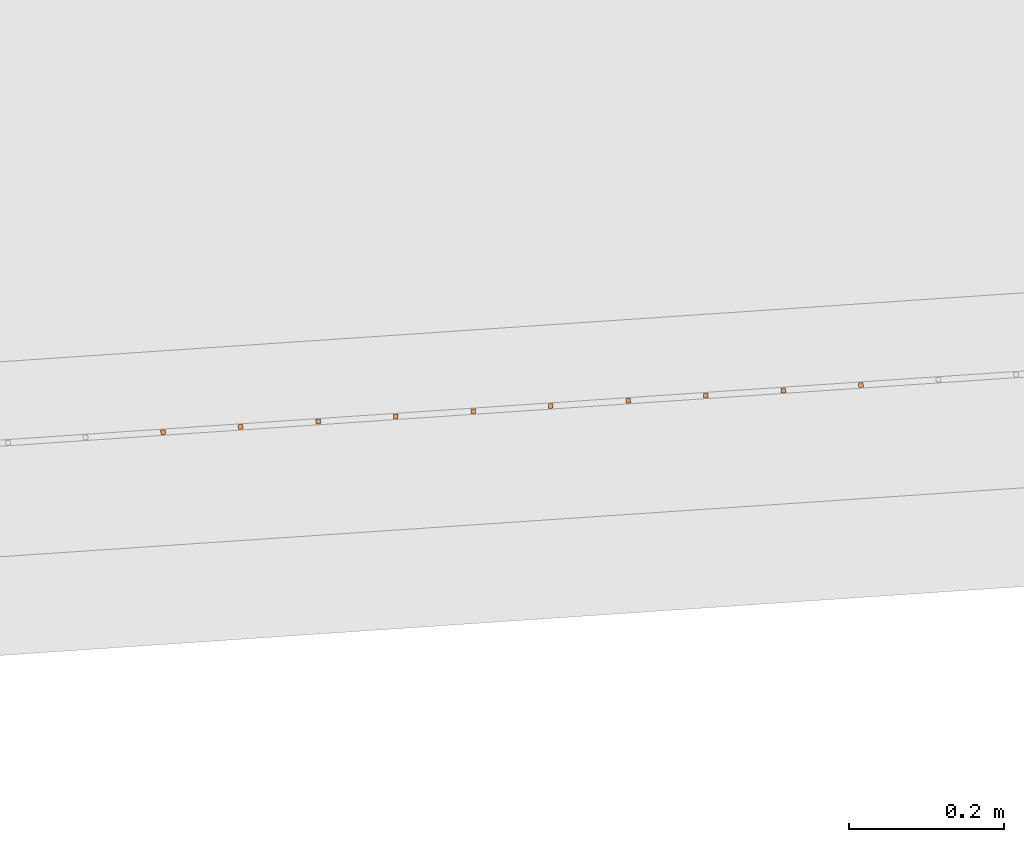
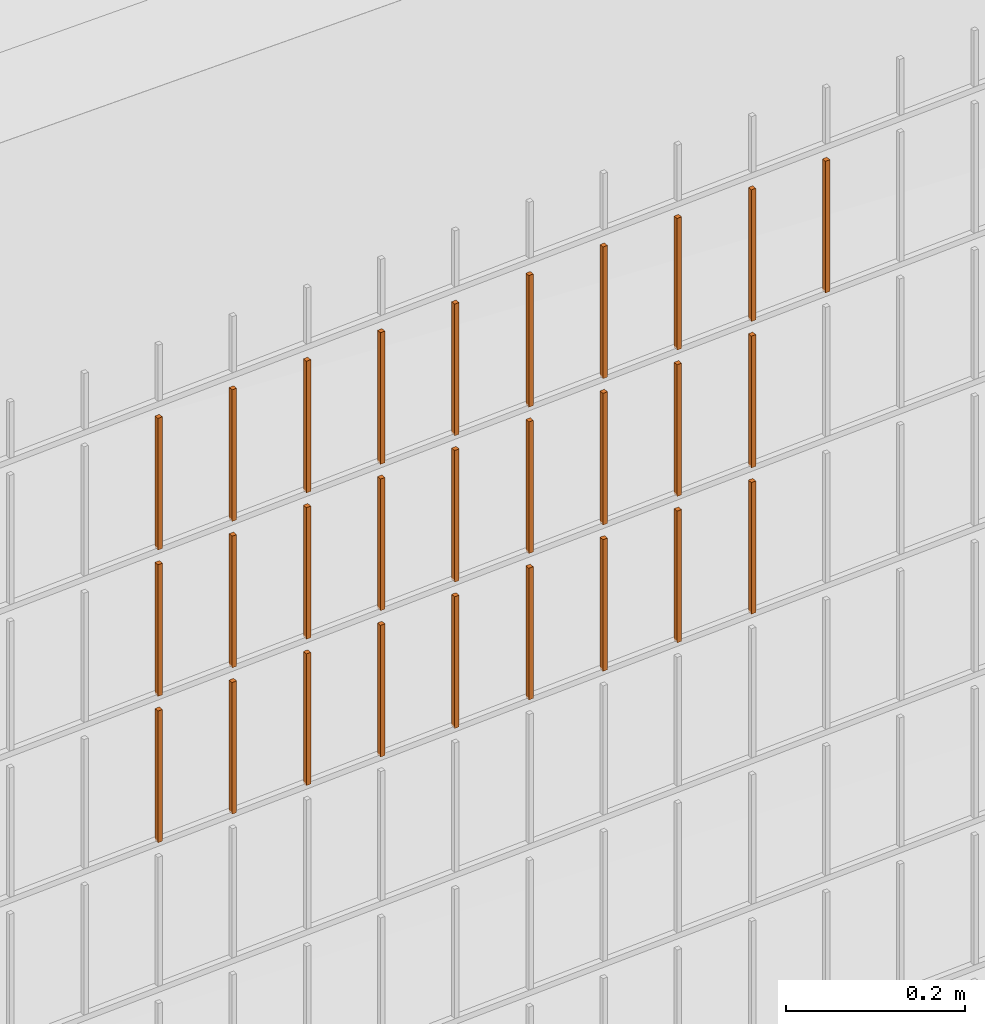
# One storey, part 357 of 1809: 28 proxies, 1 element without a shape of its own.
"""IFC2X3 building model written with IfcOpenShell, lengths in millimetres."""

from ifc_helpers import new_model, entity, si_unit, converted_unit, derived_unit, money_unit, direction, frame, origin_with_axes, place, context, subcontext, project, spatial, faceted_brep, source, transform, mapped, material, type_object, element, aggregate, save


model = new_model("IFC2X3")

# Units and contexts
model_context = context("Model", 3, precision=0.01, world=origin_with_axes(), true_north=direction((0.0, 1.0)))
body_context = subcontext(model_context, "Body", "Model", "MODEL_VIEW")
ifc_project = project(units=[si_unit("LENGTHUNIT", "METRE", prefix="MILLI"), si_unit("AREAUNIT", "SQUARE_METRE"), si_unit("VOLUMEUNIT", "CUBIC_METRE"), converted_unit("PLANEANGLEUNIT", "DEGREE", entity("IfcPlaneAngleMeasure", 0.0174532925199), si_unit("PLANEANGLEUNIT", "RADIAN"), dimensions=[0, 0, 0, 0, 0, 0, 0]), si_unit("SOLIDANGLEUNIT", "STERADIAN"), money_unit("EUR"), converted_unit("TIMEUNIT", "Year", entity("IfcTimeMeasure", 31556926.0), si_unit("TIMEUNIT", "SECOND"), dimensions=[0, 0, 1, 0, 0, 0, 0]), si_unit("MASSUNIT", "GRAM", prefix="KILO"), si_unit("THERMODYNAMICTEMPERATUREUNIT", "DEGREE_CELSIUS"), si_unit("LUMINOUSINTENSITYUNIT", "LUMEN"), si_unit("ENERGYUNIT", "JOULE", prefix="MEGA"), derived_unit("THERMALCONDUCTANCEUNIT", [(si_unit("POWERUNIT", "WATT"), 1), (si_unit("LENGTHUNIT", "METRE"), -1), (si_unit("THERMODYNAMICTEMPERATUREUNIT", "KELVIN"), -1)]), derived_unit("SPECIFICHEATCAPACITYUNIT", [(si_unit("ENERGYUNIT", "JOULE"), 1), (si_unit("MASSUNIT", "GRAM", prefix="KILO"), -1), (si_unit("THERMODYNAMICTEMPERATUREUNIT", "KELVIN"), -1)]), derived_unit("MASSDENSITYUNIT", [(si_unit("MASSUNIT", "GRAM", prefix="KILO"), 1), (si_unit("VOLUMEUNIT", "CUBIC_METRE"), -1)])], contexts=[model_context])

# Site, building, storey
site_placement = place(None, origin_with_axes())
site = spatial("IfcSite", under=ifc_project, at=site_placement, Name="Politse- ja Piirivalveameti ning Päästeameti ühishoone", CompositionType="ELEMENT")
building_placement = place(site_placement, origin_with_axes())
building = spatial("IfcBuilding", under=site, at=building_placement, Name="Politse- ja Piirivalveameti ning Päästeameti ühishoone", CompositionType="ELEMENT")
storey_placement = place(building_placement, origin_with_axes())
storey = spatial("IfcBuildingStorey", under=building, at=storey_placement, Name="Esimene korrus", CompositionType="ELEMENT", Elevation=0.0)

# Proxies
building_element_proxy_type_1 = type_object("IfcBuildingElementProxyType", Name="Railing Type", PredefinedType="NOTDEFINED")
proxy_1_placement = place(storey_placement, frame((89252.001212, -29183.4766571, 203.661247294), z_axis=(0.0, 0.0, 1.0), x_axis=(1.0, 0.0, 0.0)))
proxy_1 = element("IfcBuildingElementProxy", 1, at=proxy_1_placement, inside=storey, type_object=building_element_proxy_type_1, Name="PIIRDEAED")
ifc_material = material(Name="ET-03_Raud")
building_element_proxy_type_2 = type_object("IfcBuildingElementProxyType", Name="IfcBuildingElementProxy", PredefinedType="NOTDEFINED")
shared_shape_1 = source(origin_with_axes(), body_context, "Body", "Brep", [
    faceted_brep([(3.0, 3.0, -0.000752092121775), (-3.0, 3.0, -0.000752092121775), (-3.0, 3.0, 179.99926046), (3.0, 3.0, 179.99926046), (3.0, -3.0, 0.000752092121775), (-3.0, -3.0, 0.000752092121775), (-3.0, -3.0, 180.000764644), (3.0, -3.0, 180.000764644)], [[[0, 1, 2, 3]], [[0, 4, 5, 1]], [[1, 5, 6, 2]], [[3, 2, 6, 7]], [[4, 0, 3, 7]], [[5, 4, 7, 6]]]),
])
proxy_2_placement = place(proxy_1_placement, frame((-25468.6538161, -19018.0862117, 1620.83491187), z_axis=(0.0, 0.0, 1.0), x_axis=(1.0, 0.0, 0.0)))
proxy_2 = element("IfcBuildingElementProxy", 2, at=proxy_2_placement, type_object=building_element_proxy_type_2, material=ifc_material, Name="BALUSTER - 001", context=body_context, shape_type="MappedRepresentation", body=[
    mapped(shared_shape_1, transform((0.0, 0.0, 0.0), x_axis=(-0.0673926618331, 0.997726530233, 0.0), y_axis=(-0.997726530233, -0.0673926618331, 0.0), z_axis=(0.0, 0.0, 1.0))),
])
shared_shape_2 = source(origin_with_axes(), body_context, "Body", "Brep", [
    faceted_brep([(3.0, 3.0, -0.000752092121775), (-3.0, 3.0, -0.000752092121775), (-3.0, 3.0, 179.99926046), (3.0, 3.0, 179.99926046), (3.0, -3.0, 0.000752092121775), (-3.0, -3.0, 0.000752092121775), (-3.0, -3.0, 180.000764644), (3.0, -3.0, 180.000764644)], [[[0, 1, 2, 3]], [[0, 4, 5, 1]], [[1, 5, 6, 2]], [[3, 2, 6, 7]], [[4, 0, 3, 7]], [[5, 4, 7, 6]]]),
])
proxy_3_placement = place(proxy_1_placement, frame((-25468.6538161, -19018.0862117, 1820.83491187), z_axis=(0.0, 0.0, 1.0), x_axis=(1.0, 0.0, 0.0)))
proxy_3 = element("IfcBuildingElementProxy", 3, at=proxy_3_placement, type_object=building_element_proxy_type_2, material=ifc_material, Name="BALUSTER - 001", context=body_context, shape_type="MappedRepresentation", body=[
    mapped(shared_shape_2, transform((0.0, 0.0, 0.0), x_axis=(-0.0673926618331, 0.997726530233, 0.0), y_axis=(-0.997726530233, -0.0673926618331, 0.0), z_axis=(0.0, 0.0, 1.0))),
])
shared_shape_3 = source(origin_with_axes(), body_context, "Body", "Brep", [
    faceted_brep([(3.0, 3.0, -0.000752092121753), (-3.0, 3.0, -0.000752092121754), (-3.0, 3.0, 179.99926046), (3.0, 3.0, 179.99926046), (3.0, -3.0, 0.000752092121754), (-3.0, -3.0, 0.000752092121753), (-3.0, -3.0, 180.000764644), (3.0, -3.0, 180.000764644)], [[[0, 1, 2, 3]], [[0, 4, 5, 1]], [[1, 5, 6, 2]], [[3, 2, 6, 7]], [[4, 0, 3, 7]], [[5, 4, 7, 6]]]),
])
proxy_4_placement = place(proxy_1_placement, frame((-25767.9717752, -19038.3040102, 1820.75970266), z_axis=(0.0, 0.0, 1.0), x_axis=(1.0, 0.0, 0.0)))
proxy_4 = element("IfcBuildingElementProxy", 4, at=proxy_4_placement, type_object=building_element_proxy_type_2, material=ifc_material, Name="BALUSTER - 001", context=body_context, shape_type="MappedRepresentation", body=[
    mapped(shared_shape_3, transform((0.0, 0.0, 0.0), x_axis=(-0.0673926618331, 0.997726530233, 0.0), y_axis=(-0.997726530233, -0.0673926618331, 0.0), z_axis=(0.0, 0.0, 1.0))),
])
shared_shape_4 = source(origin_with_axes(), body_context, "Body", "Brep", [
    faceted_brep([(3.0, 3.0, -0.000752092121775), (-3.0, 3.0, -0.000752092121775), (-3.0, 3.0, 179.99926046), (3.0, 3.0, 179.99926046), (3.0, -3.0, 0.000752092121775), (-3.0, -3.0, 0.000752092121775), (-3.0, -3.0, 180.000764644), (3.0, -3.0, 180.000764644)], [[[0, 1, 2, 3]], [[0, 4, 5, 1]], [[1, 5, 6, 2]], [[3, 2, 6, 7]], [[4, 0, 3, 7]], [[5, 4, 7, 6]]]),
])
proxy_5_placement = place(proxy_1_placement, frame((-25468.6538161, -19018.0862117, 1420.83491187), z_axis=(0.0, 0.0, 1.0), x_axis=(1.0, 0.0, 0.0)))
proxy_5 = element("IfcBuildingElementProxy", 5, at=proxy_5_placement, type_object=building_element_proxy_type_2, material=ifc_material, Name="BALUSTER - 001", context=body_context, shape_type="MappedRepresentation", body=[
    mapped(shared_shape_4, transform((0.0, 0.0, 0.0), x_axis=(-0.0673926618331, 0.997726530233, 0.0), y_axis=(-0.997726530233, -0.0673926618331, 0.0), z_axis=(0.0, 0.0, 1.0))),
])
shared_shape_5 = source(origin_with_axes(), body_context, "Body", "Brep", [
    faceted_brep([(3.0, 3.0, -0.000752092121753), (-3.0, 3.0, -0.000752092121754), (-3.0, 3.0, 179.99926046), (3.0, 3.0, 179.99926046), (3.0, -3.0, 0.000752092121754), (-3.0, -3.0, 0.000752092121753), (-3.0, -3.0, 180.000764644), (3.0, -3.0, 180.000764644)], [[[0, 1, 2, 3]], [[0, 4, 5, 1]], [[1, 5, 6, 2]], [[3, 2, 6, 7]], [[4, 0, 3, 7]], [[5, 4, 7, 6]]]),
])
proxy_6_placement = place(proxy_1_placement, frame((-25767.9717752, -19038.3040102, 1420.75970266), z_axis=(0.0, 0.0, 1.0), x_axis=(1.0, 0.0, 0.0)))
proxy_6 = element("IfcBuildingElementProxy", 6, at=proxy_6_placement, type_object=building_element_proxy_type_2, material=ifc_material, Name="BALUSTER - 001", context=body_context, shape_type="MappedRepresentation", body=[
    mapped(shared_shape_5, transform((0.0, 0.0, 0.0), x_axis=(-0.0673926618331, 0.997726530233, 0.0), y_axis=(-0.997726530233, -0.0673926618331, 0.0), z_axis=(0.0, 0.0, 1.0))),
])
proxy_7_placement = place(proxy_1_placement, frame((-25767.9717752, -19038.3040102, 1620.75970266), z_axis=(0.0, 0.0, 1.0), x_axis=(1.0, 0.0, 0.0)))
proxy_7 = element("IfcBuildingElementProxy", 7, at=proxy_7_placement, type_object=building_element_proxy_type_2, material=ifc_material, Name="BALUSTER - 001", context=body_context, shape_type="MappedRepresentation", body=[
    mapped(shared_shape_5, transform((0.0, 0.0, 0.0), x_axis=(-0.0673926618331, 0.997726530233, 0.0), y_axis=(-0.997726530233, -0.0673926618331, 0.0), z_axis=(0.0, 0.0, 1.0))),
])
shared_shape_6 = source(origin_with_axes(), body_context, "Body", "Brep", [
    faceted_brep([(3.0, 3.0, -0.000752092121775), (-3.0, 3.0, -0.000752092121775), (-3.0, 3.0, 179.99926046), (3.0, 3.0, 179.99926046), (3.0, -3.0, 0.000752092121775), (-3.0, -3.0, 0.000752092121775), (-3.0, -3.0, 180.000764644), (3.0, -3.0, 180.000764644)], [[[0, 1, 2, 3]], [[0, 4, 5, 1]], [[1, 5, 6, 2]], [[3, 2, 6, 7]], [[4, 0, 3, 7]], [[5, 4, 7, 6]]]),
])
proxy_8_placement = place(proxy_1_placement, frame((-26167.0623873, -19065.2610749, 1420.65942371), z_axis=(0.0, 0.0, 1.0), x_axis=(1.0, 0.0, 0.0)))
proxy_8 = element("IfcBuildingElementProxy", 8, at=proxy_8_placement, type_object=building_element_proxy_type_2, material=ifc_material, Name="BALUSTER - 001", context=body_context, shape_type="MappedRepresentation", body=[
    mapped(shared_shape_6, transform((0.0, 0.0, 0.0), x_axis=(-0.0673926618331, 0.997726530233, 0.0), y_axis=(-0.997726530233, -0.0673926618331, 0.0), z_axis=(0.0, 0.0, 1.0))),
])
shared_shape_7 = source(origin_with_axes(), body_context, "Body", "Brep", [
    faceted_brep([(3.0, 3.0, -0.000752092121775), (-3.0, 3.0, -0.000752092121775), (-3.0, 3.0, 179.99926046), (3.0, 3.0, 179.99926046), (3.0, -3.0, 0.000752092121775), (-3.0, -3.0, 0.000752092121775), (-3.0, -3.0, 180.000764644), (3.0, -3.0, 180.000764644)], [[[0, 1, 2, 3]], [[0, 4, 5, 1]], [[1, 5, 6, 2]], [[3, 2, 6, 7]], [[4, 0, 3, 7]], [[5, 4, 7, 6]]]),
])
proxy_9_placement = place(proxy_1_placement, frame((-25368.8811631, -19011.3469455, 1820.85998161), z_axis=(0.0, 0.0, 1.0), x_axis=(1.0, 0.0, 0.0)))
proxy_9 = element("IfcBuildingElementProxy", 9, at=proxy_9_placement, type_object=building_element_proxy_type_2, material=ifc_material, Name="BALUSTER - 001", context=body_context, shape_type="MappedRepresentation", body=[
    mapped(shared_shape_7, transform((0.0, 0.0, 0.0), x_axis=(-0.0673926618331, 0.997726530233, 0.0), y_axis=(-0.997726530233, -0.0673926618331, 0.0), z_axis=(0.0, 0.0, 1.0))),
])
proxy_10_placement = place(proxy_1_placement, frame((-26167.0623873, -19065.2610749, 1820.65942371), z_axis=(0.0, 0.0, 1.0), x_axis=(1.0, 0.0, 0.0)))
proxy_10 = element("IfcBuildingElementProxy", 10, at=proxy_10_placement, type_object=building_element_proxy_type_2, material=ifc_material, Name="BALUSTER - 001", context=body_context, shape_type="MappedRepresentation", body=[
    mapped(shared_shape_7, transform((0.0, 0.0, 0.0), x_axis=(-0.0673926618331, 0.997726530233, 0.0), y_axis=(-0.997726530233, -0.0673926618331, 0.0), z_axis=(0.0, 0.0, 1.0))),
])
shared_shape_8 = source(origin_with_axes(), body_context, "Body", "Brep", [
    faceted_brep([(3.0, 3.0, -0.000752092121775), (-3.0, 3.0, -0.000752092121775), (-3.0, 3.0, 179.99926046), (3.0, 3.0, 179.99926046), (3.0, -3.0, 0.000752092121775), (-3.0, -3.0, 0.000752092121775), (-3.0, -3.0, 180.000764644), (3.0, -3.0, 180.000764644)], [[[0, 1, 2, 3]], [[0, 4, 5, 1]], [[1, 5, 6, 2]], [[3, 2, 6, 7]], [[4, 0, 3, 7]], [[5, 4, 7, 6]]]),
])
proxy_11_placement = place(proxy_1_placement, frame((-26167.0623873, -19065.2610749, 1620.65942371), z_axis=(0.0, 0.0, 1.0), x_axis=(1.0, 0.0, 0.0)))
proxy_11 = element("IfcBuildingElementProxy", 11, at=proxy_11_placement, type_object=building_element_proxy_type_2, material=ifc_material, Name="BALUSTER - 001", context=body_context, shape_type="MappedRepresentation", body=[
    mapped(shared_shape_8, transform((0.0, 0.0, 0.0), x_axis=(-0.0673926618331, 0.997726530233, 0.0), y_axis=(-0.997726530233, -0.0673926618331, 0.0), z_axis=(0.0, 0.0, 1.0))),
])
proxy_12_placement = place(proxy_1_placement, frame((-26067.2897343, -19058.5218088, 1820.68449345), z_axis=(0.0, 0.0, 1.0), x_axis=(1.0, 0.0, 0.0)))
proxy_12 = element("IfcBuildingElementProxy", 12, at=proxy_12_placement, type_object=building_element_proxy_type_2, material=ifc_material, Name="BALUSTER - 001", context=body_context, shape_type="MappedRepresentation", body=[
    mapped(shared_shape_8, transform((0.0, 0.0, 0.0), x_axis=(-0.0673926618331, 0.997726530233, 0.0), y_axis=(-0.997726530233, -0.0673926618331, 0.0), z_axis=(0.0, 0.0, 1.0))),
])
shared_shape_9 = source(origin_with_axes(), body_context, "Body", "Brep", [
    faceted_brep([(3.0, 3.0, -0.000752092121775), (-3.0, 3.0, -0.000752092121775), (-3.0, 3.0, 179.99926046), (3.0, 3.0, 179.99926046), (3.0, -3.0, 0.000752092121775), (-3.0, -3.0, 0.000752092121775), (-3.0, -3.0, 180.000764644), (3.0, -3.0, 180.000764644)], [[[0, 1, 2, 3]], [[0, 4, 5, 1]], [[1, 5, 6, 2]], [[3, 2, 6, 7]], [[4, 0, 3, 7]], [[5, 4, 7, 6]]]),
])
proxy_13_placement = place(proxy_1_placement, frame((-25368.8811631, -19011.3469455, 1420.85998161), z_axis=(0.0, 0.0, 1.0), x_axis=(1.0, 0.0, 0.0)))
proxy_13 = element("IfcBuildingElementProxy", 13, at=proxy_13_placement, type_object=building_element_proxy_type_2, material=ifc_material, Name="BALUSTER - 001", context=body_context, shape_type="MappedRepresentation", body=[
    mapped(shared_shape_9, transform((0.0, 0.0, 0.0), x_axis=(-0.0673926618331, 0.997726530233, 0.0), y_axis=(-0.997726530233, -0.0673926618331, 0.0), z_axis=(0.0, 0.0, 1.0))),
])
proxy_14_placement = place(proxy_1_placement, frame((-25368.8811631, -19011.3469455, 1620.85998161), z_axis=(0.0, 0.0, 1.0), x_axis=(1.0, 0.0, 0.0)))
proxy_14 = element("IfcBuildingElementProxy", 14, at=proxy_14_placement, type_object=building_element_proxy_type_2, material=ifc_material, Name="BALUSTER - 001", context=body_context, shape_type="MappedRepresentation", body=[
    mapped(shared_shape_9, transform((0.0, 0.0, 0.0), x_axis=(-0.0673926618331, 0.997726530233, 0.0), y_axis=(-0.997726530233, -0.0673926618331, 0.0), z_axis=(0.0, 0.0, 1.0))),
])
shared_shape_10 = source(origin_with_axes(), body_context, "Body", "Brep", [
    faceted_brep([(3.0, 3.0, -0.000752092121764), (-3.0, 3.0, -0.000752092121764), (-3.0, 3.0, 179.99926046), (3.0, 3.0, 179.99926046), (3.0, -3.0, 0.000752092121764), (-3.0, -3.0, 0.000752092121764), (-3.0, -3.0, 180.000764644), (3.0, -3.0, 180.000764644)], [[[0, 1, 2, 3]], [[0, 4, 5, 1]], [[1, 5, 6, 2]], [[3, 2, 6, 7]], [[4, 0, 3, 7]], [[5, 4, 7, 6]]]),
])
proxy_15_placement = place(proxy_1_placement, frame((-25568.4264692, -19024.8254778, 1420.80984213), z_axis=(0.0, 0.0, 1.0), x_axis=(1.0, 0.0, 0.0)))
proxy_15 = element("IfcBuildingElementProxy", 15, at=proxy_15_placement, type_object=building_element_proxy_type_2, material=ifc_material, Name="BALUSTER - 001", context=body_context, shape_type="MappedRepresentation", body=[
    mapped(shared_shape_10, transform((0.0, 0.0, 0.0), x_axis=(-0.0673926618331, 0.997726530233, 0.0), y_axis=(-0.997726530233, -0.0673926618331, 0.0), z_axis=(0.0, 0.0, 1.0))),
])
shared_shape_11 = source(origin_with_axes(), body_context, "Body", "Brep", [
    faceted_brep([(3.0, 3.0, -0.000752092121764), (-3.0, 3.0, -0.000752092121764), (-3.0, 3.0, 179.99926046), (3.0, 3.0, 179.99926046), (3.0, -3.0, 0.000752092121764), (-3.0, -3.0, 0.000752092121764), (-3.0, -3.0, 180.000764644), (3.0, -3.0, 180.000764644)], [[[0, 1, 2, 3]], [[0, 4, 5, 1]], [[1, 5, 6, 2]], [[3, 2, 6, 7]], [[4, 0, 3, 7]], [[5, 4, 7, 6]]]),
])
proxy_16_placement = place(proxy_1_placement, frame((-25668.1991222, -19031.564744, 1820.7847724), z_axis=(0.0, 0.0, 1.0), x_axis=(1.0, 0.0, 0.0)))
proxy_16 = element("IfcBuildingElementProxy", 16, at=proxy_16_placement, type_object=building_element_proxy_type_2, material=ifc_material, Name="BALUSTER - 001", context=body_context, shape_type="MappedRepresentation", body=[
    mapped(shared_shape_11, transform((0.0, 0.0, 0.0), x_axis=(-0.0673926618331, 0.997726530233, 0.0), y_axis=(-0.997726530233, -0.0673926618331, 0.0), z_axis=(0.0, 0.0, 1.0))),
])
shared_shape_12 = source(origin_with_axes(), body_context, "Body", "Brep", [
    faceted_brep([(3.0, 3.0, -0.000752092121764), (-3.0, 3.0, -0.000752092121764), (-3.0, 3.0, 179.99926046), (3.0, 3.0, 179.99926046), (3.0, -3.0, 0.000752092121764), (-3.0, -3.0, 0.000752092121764), (-3.0, -3.0, 180.000764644), (3.0, -3.0, 180.000764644)], [[[0, 1, 2, 3]], [[0, 4, 5, 1]], [[1, 5, 6, 2]], [[3, 2, 6, 7]], [[4, 0, 3, 7]], [[5, 4, 7, 6]]]),
])
proxy_17_placement = place(proxy_1_placement, frame((-25568.4264692, -19024.8254778, 1820.80984213), z_axis=(0.0, 0.0, 1.0), x_axis=(1.0, 0.0, 0.0)))
proxy_17 = element("IfcBuildingElementProxy", 17, at=proxy_17_placement, type_object=building_element_proxy_type_2, material=ifc_material, Name="BALUSTER - 001", context=body_context, shape_type="MappedRepresentation", body=[
    mapped(shared_shape_12, transform((0.0, 0.0, 0.0), x_axis=(-0.0673926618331, 0.997726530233, 0.0), y_axis=(-0.997726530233, -0.0673926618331, 0.0), z_axis=(0.0, 0.0, 1.0))),
])
shared_shape_13 = source(origin_with_axes(), body_context, "Body", "Brep", [
    faceted_brep([(3.0, 3.0, -0.000752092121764), (-3.0, 3.0, -0.000752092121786), (-3.0, 3.0, 179.99926046), (3.0, 3.0, 179.99926046), (3.0, -3.0, 0.000752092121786), (-3.0, -3.0, 0.000752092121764), (-3.0, -3.0, 180.000764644), (3.0, -3.0, 180.000764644)], [[[0, 1, 2, 3]], [[0, 4, 5, 1]], [[1, 5, 6, 2]], [[3, 2, 6, 7]], [[4, 0, 3, 7]], [[5, 4, 7, 6]]]),
])
proxy_18_placement = place(proxy_1_placement, frame((-25269.1085101, -19004.6076793, 1820.88505135), z_axis=(0.0, 0.0, 1.0), x_axis=(1.0, 0.0, 0.0)))
proxy_18 = element("IfcBuildingElementProxy", 18, at=proxy_18_placement, type_object=building_element_proxy_type_2, material=ifc_material, Name="BALUSTER - 001", context=body_context, shape_type="MappedRepresentation", body=[
    mapped(shared_shape_13, transform((0.0, 0.0, 0.0), x_axis=(-0.0673926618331, 0.997726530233, 0.0), y_axis=(-0.997726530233, -0.0673926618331, 0.0), z_axis=(0.0, 0.0, 1.0))),
])
shared_shape_14 = source(origin_with_axes(), body_context, "Body", "Brep", [
    faceted_brep([(3.0, 3.0, -0.000752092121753), (-3.0, 3.0, -0.000752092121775), (-3.0, 3.0, 179.99926046), (3.0, 3.0, 179.99926046), (3.0, -3.0, 0.000752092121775), (-3.0, -3.0, 0.000752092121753), (-3.0, -3.0, 180.000764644), (3.0, -3.0, 180.000764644)], [[[0, 1, 2, 3]], [[0, 4, 5, 1]], [[1, 5, 6, 2]], [[3, 2, 6, 7]], [[4, 0, 3, 7]], [[5, 4, 7, 6]]]),
])
proxy_19_placement = place(proxy_1_placement, frame((-25867.7444282, -19045.0432764, 1820.73463292), z_axis=(0.0, 0.0, 1.0), x_axis=(1.0, 0.0, 0.0)))
proxy_19 = element("IfcBuildingElementProxy", 19, at=proxy_19_placement, type_object=building_element_proxy_type_2, material=ifc_material, Name="BALUSTER - 001", context=body_context, shape_type="MappedRepresentation", body=[
    mapped(shared_shape_14, transform((0.0, 0.0, 0.0), x_axis=(-0.0673926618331, 0.997726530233, 0.0), y_axis=(-0.997726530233, -0.0673926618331, 0.0), z_axis=(0.0, 0.0, 1.0))),
])
shared_shape_15 = source(origin_with_axes(), body_context, "Body", "Brep", [
    faceted_brep([(3.0, 3.0, -0.000752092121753), (-3.0, 3.0, -0.000752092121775), (-3.0, 3.0, 179.99926046), (3.0, 3.0, 179.99926046), (3.0, -3.0, 0.000752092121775), (-3.0, -3.0, 0.000752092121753), (-3.0, -3.0, 180.000764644), (3.0, -3.0, 180.000764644)], [[[0, 1, 2, 3]], [[0, 4, 5, 1]], [[1, 5, 6, 2]], [[3, 2, 6, 7]], [[4, 0, 3, 7]], [[5, 4, 7, 6]]]),
])
proxy_20_placement = place(proxy_1_placement, frame((-25967.5170812, -19051.7825426, 1820.70956318), z_axis=(0.0, 0.0, 1.0), x_axis=(1.0, 0.0, 0.0)))
proxy_20 = element("IfcBuildingElementProxy", 20, at=proxy_20_placement, type_object=building_element_proxy_type_2, material=ifc_material, Name="BALUSTER - 001", context=body_context, shape_type="MappedRepresentation", body=[
    mapped(shared_shape_15, transform((0.0, 0.0, 0.0), x_axis=(-0.0673926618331, 0.997726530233, 0.0), y_axis=(-0.997726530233, -0.0673926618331, 0.0), z_axis=(0.0, 0.0, 1.0))),
])
shared_shape_16 = source(origin_with_axes(), body_context, "Body", "Brep", [
    faceted_brep([(3.0, 3.0, -0.000752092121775), (-3.0, 3.0, -0.000752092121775), (-3.0, 3.0, 179.99926046), (3.0, 3.0, 179.99926046), (3.0, -3.0, 0.000752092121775), (-3.0, -3.0, 0.000752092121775), (-3.0, -3.0, 180.000764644), (3.0, -3.0, 180.000764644)], [[[0, 1, 2, 3]], [[0, 4, 5, 1]], [[1, 5, 6, 2]], [[3, 2, 6, 7]], [[4, 0, 3, 7]], [[5, 4, 7, 6]]]),
])
proxy_21_placement = place(proxy_1_placement, frame((-26067.2897343, -19058.5218088, 1420.68449345), z_axis=(0.0, 0.0, 1.0), x_axis=(1.0, 0.0, 0.0)))
proxy_21 = element("IfcBuildingElementProxy", 21, at=proxy_21_placement, type_object=building_element_proxy_type_2, material=ifc_material, Name="BALUSTER - 001", context=body_context, shape_type="MappedRepresentation", body=[
    mapped(shared_shape_16, transform((0.0, 0.0, 0.0), x_axis=(-0.0673926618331, 0.997726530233, 0.0), y_axis=(-0.997726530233, -0.0673926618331, 0.0), z_axis=(0.0, 0.0, 1.0))),
])
proxy_22_placement = place(proxy_1_placement, frame((-26067.2897343, -19058.5218088, 1620.68449345), z_axis=(0.0, 0.0, 1.0), x_axis=(1.0, 0.0, 0.0)))
proxy_22 = element("IfcBuildingElementProxy", 22, at=proxy_22_placement, type_object=building_element_proxy_type_2, material=ifc_material, Name="BALUSTER - 001", context=body_context, shape_type="MappedRepresentation", body=[
    mapped(shared_shape_16, transform((0.0, 0.0, 0.0), x_axis=(-0.0673926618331, 0.997726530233, 0.0), y_axis=(-0.997726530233, -0.0673926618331, 0.0), z_axis=(0.0, 0.0, 1.0))),
])
shared_shape_17 = source(origin_with_axes(), body_context, "Body", "Brep", [
    faceted_brep([(3.0, 3.0, -0.000752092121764), (-3.0, 3.0, -0.000752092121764), (-3.0, 3.0, 179.99926046), (3.0, 3.0, 179.99926046), (3.0, -3.0, 0.000752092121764), (-3.0, -3.0, 0.000752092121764), (-3.0, -3.0, 180.000764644), (3.0, -3.0, 180.000764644)], [[[0, 1, 2, 3]], [[0, 4, 5, 1]], [[1, 5, 6, 2]], [[3, 2, 6, 7]], [[4, 0, 3, 7]], [[5, 4, 7, 6]]]),
])
proxy_23_placement = place(proxy_1_placement, frame((-25668.1991222, -19031.564744, 1420.7847724), z_axis=(0.0, 0.0, 1.0), x_axis=(1.0, 0.0, 0.0)))
proxy_23 = element("IfcBuildingElementProxy", 23, at=proxy_23_placement, type_object=building_element_proxy_type_2, material=ifc_material, Name="BALUSTER - 001", context=body_context, shape_type="MappedRepresentation", body=[
    mapped(shared_shape_17, transform((0.0, 0.0, 0.0), x_axis=(-0.0673926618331, 0.997726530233, 0.0), y_axis=(-0.997726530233, -0.0673926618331, 0.0), z_axis=(0.0, 0.0, 1.0))),
])
proxy_24_placement = place(proxy_1_placement, frame((-25668.1991222, -19031.564744, 1620.7847724), z_axis=(0.0, 0.0, 1.0), x_axis=(1.0, 0.0, 0.0)))
proxy_24 = element("IfcBuildingElementProxy", 24, at=proxy_24_placement, type_object=building_element_proxy_type_2, material=ifc_material, Name="BALUSTER - 001", context=body_context, shape_type="MappedRepresentation", body=[
    mapped(shared_shape_17, transform((0.0, 0.0, 0.0), x_axis=(-0.0673926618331, 0.997726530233, 0.0), y_axis=(-0.997726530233, -0.0673926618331, 0.0), z_axis=(0.0, 0.0, 1.0))),
])
shared_shape_18 = source(origin_with_axes(), body_context, "Body", "Brep", [
    faceted_brep([(3.0, 3.0, -0.000752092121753), (-3.0, 3.0, -0.000752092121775), (-3.0, 3.0, 179.99926046), (3.0, 3.0, 179.99926046), (3.0, -3.0, 0.000752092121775), (-3.0, -3.0, 0.000752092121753), (-3.0, -3.0, 180.000764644), (3.0, -3.0, 180.000764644)], [[[0, 1, 2, 3]], [[0, 4, 5, 1]], [[1, 5, 6, 2]], [[3, 2, 6, 7]], [[4, 0, 3, 7]], [[5, 4, 7, 6]]]),
])
proxy_25_placement = place(proxy_1_placement, frame((-25867.7444282, -19045.0432764, 1420.73463292), z_axis=(0.0, 0.0, 1.0), x_axis=(1.0, 0.0, 0.0)))
proxy_25 = element("IfcBuildingElementProxy", 25, at=proxy_25_placement, type_object=building_element_proxy_type_2, material=ifc_material, Name="BALUSTER - 001", context=body_context, shape_type="MappedRepresentation", body=[
    mapped(shared_shape_18, transform((0.0, 0.0, 0.0), x_axis=(-0.0673926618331, 0.997726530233, 0.0), y_axis=(-0.997726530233, -0.0673926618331, 0.0), z_axis=(0.0, 0.0, 1.0))),
])
shared_shape_19 = source(origin_with_axes(), body_context, "Body", "Brep", [
    faceted_brep([(3.0, 3.0, -0.000752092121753), (-3.0, 3.0, -0.000752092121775), (-3.0, 3.0, 179.99926046), (3.0, 3.0, 179.99926046), (3.0, -3.0, 0.000752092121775), (-3.0, -3.0, 0.000752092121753), (-3.0, -3.0, 180.000764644), (3.0, -3.0, 180.000764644)], [[[0, 1, 2, 3]], [[0, 4, 5, 1]], [[1, 5, 6, 2]], [[3, 2, 6, 7]], [[4, 0, 3, 7]], [[5, 4, 7, 6]]]),
])
proxy_26_placement = place(proxy_1_placement, frame((-25967.5170812, -19051.7825426, 1420.70956318), z_axis=(0.0, 0.0, 1.0), x_axis=(1.0, 0.0, 0.0)))
proxy_26 = element("IfcBuildingElementProxy", 26, at=proxy_26_placement, type_object=building_element_proxy_type_2, material=ifc_material, Name="BALUSTER - 001", context=body_context, shape_type="MappedRepresentation", body=[
    mapped(shared_shape_19, transform((0.0, 0.0, 0.0), x_axis=(-0.0673926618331, 0.997726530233, 0.0), y_axis=(-0.997726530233, -0.0673926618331, 0.0), z_axis=(0.0, 0.0, 1.0))),
])
shared_shape_20 = source(origin_with_axes(), body_context, "Body", "Brep", [
    faceted_brep([(3.0, 3.0, -0.000752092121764), (-3.0, 3.0, -0.000752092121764), (-3.0, 3.0, 179.99926046), (3.0, 3.0, 179.99926046), (3.0, -3.0, 0.000752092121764), (-3.0, -3.0, 0.000752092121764), (-3.0, -3.0, 180.000764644), (3.0, -3.0, 180.000764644)], [[[0, 1, 2, 3]], [[0, 4, 5, 1]], [[1, 5, 6, 2]], [[3, 2, 6, 7]], [[4, 0, 3, 7]], [[5, 4, 7, 6]]]),
])
proxy_27_placement = place(proxy_1_placement, frame((-25568.4264692, -19024.8254778, 1620.80984213), z_axis=(0.0, 0.0, 1.0), x_axis=(1.0, 0.0, 0.0)))
proxy_27 = element("IfcBuildingElementProxy", 27, at=proxy_27_placement, type_object=building_element_proxy_type_2, material=ifc_material, Name="BALUSTER - 001", context=body_context, shape_type="MappedRepresentation", body=[
    mapped(shared_shape_20, transform((0.0, 0.0, 0.0), x_axis=(-0.0673926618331, 0.997726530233, 0.0), y_axis=(-0.997726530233, -0.0673926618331, 0.0), z_axis=(0.0, 0.0, 1.0))),
])
shared_shape_21 = source(origin_with_axes(), body_context, "Body", "Brep", [
    faceted_brep([(3.0, 3.0, -0.000752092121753), (-3.0, 3.0, -0.000752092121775), (-3.0, 3.0, 179.99926046), (3.0, 3.0, 179.99926046), (3.0, -3.0, 0.000752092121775), (-3.0, -3.0, 0.000752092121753), (-3.0, -3.0, 180.000764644), (3.0, -3.0, 180.000764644)], [[[0, 1, 2, 3]], [[0, 4, 5, 1]], [[1, 5, 6, 2]], [[3, 2, 6, 7]], [[4, 0, 3, 7]], [[5, 4, 7, 6]]]),
])
proxy_28_placement = place(proxy_1_placement, frame((-25867.7444282, -19045.0432764, 1620.73463292), z_axis=(0.0, 0.0, 1.0), x_axis=(1.0, 0.0, 0.0)))
proxy_28 = element("IfcBuildingElementProxy", 28, at=proxy_28_placement, type_object=building_element_proxy_type_2, material=ifc_material, Name="BALUSTER - 001", context=body_context, shape_type="MappedRepresentation", body=[
    mapped(shared_shape_21, transform((0.0, 0.0, 0.0), x_axis=(-0.0673926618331, 0.997726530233, 0.0), y_axis=(-0.997726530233, -0.0673926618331, 0.0), z_axis=(0.0, 0.0, 1.0))),
])
shared_shape_22 = source(origin_with_axes(), body_context, "Body", "Brep", [
    faceted_brep([(3.0, 3.0, -0.000752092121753), (-3.0, 3.0, -0.000752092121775), (-3.0, 3.0, 179.99926046), (3.0, 3.0, 179.99926046), (3.0, -3.0, 0.000752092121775), (-3.0, -3.0, 0.000752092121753), (-3.0, -3.0, 180.000764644), (3.0, -3.0, 180.000764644)], [[[0, 1, 2, 3]], [[0, 4, 5, 1]], [[1, 5, 6, 2]], [[3, 2, 6, 7]], [[4, 0, 3, 7]], [[5, 4, 7, 6]]]),
])
proxy_29_placement = place(proxy_1_placement, frame((-25967.5170812, -19051.7825426, 1620.70956318), z_axis=(0.0, 0.0, 1.0), x_axis=(1.0, 0.0, 0.0)))
proxy_29 = element("IfcBuildingElementProxy", 29, at=proxy_29_placement, type_object=building_element_proxy_type_2, material=ifc_material, Name="BALUSTER - 001", context=body_context, shape_type="MappedRepresentation", body=[
    mapped(shared_shape_22, transform((0.0, 0.0, 0.0), x_axis=(-0.0673926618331, 0.997726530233, 0.0), y_axis=(-0.997726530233, -0.0673926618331, 0.0), z_axis=(0.0, 0.0, 1.0))),
])
aggregate(proxy_1, [proxy_13, proxy_5, proxy_15, proxy_23, proxy_6, proxy_25, proxy_26, proxy_21, proxy_8, proxy_14, proxy_2, proxy_27, proxy_24, proxy_7, proxy_28, proxy_29, proxy_22, proxy_11, proxy_18, proxy_9, proxy_3, proxy_17, proxy_16, proxy_4, proxy_19, proxy_20, proxy_12, proxy_10])

save(model, "model.ifc")
